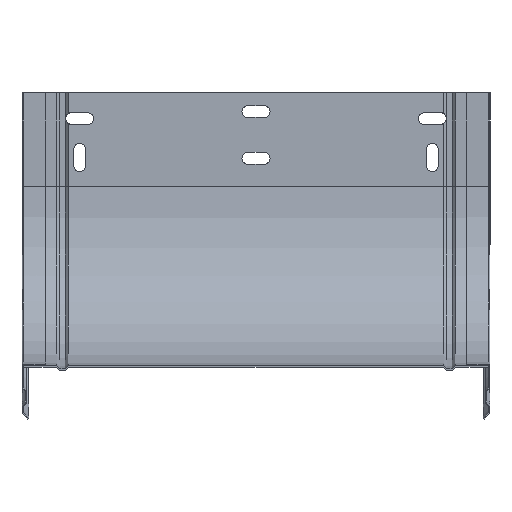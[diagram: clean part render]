
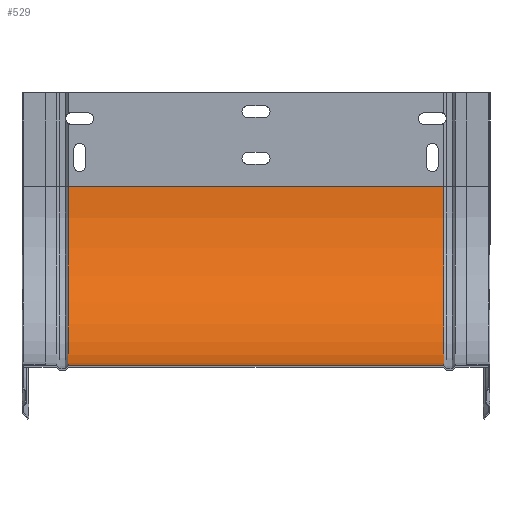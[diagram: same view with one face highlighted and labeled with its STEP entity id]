
A CAD part, front view. The second image highlights one B-rep face of the part: STEP entity #529.
In plain terms, the highlighted cylindrical face has radius 115 mm (diameter 230 mm), a partial arc.
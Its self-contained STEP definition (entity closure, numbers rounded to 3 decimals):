
#49 = EDGE_CURVE ( 'NONE', #2102, #777, #1106, .T. ) ;
#144 = AXIS2_PLACEMENT_3D ( 'NONE', #2597, #1044, #993 ) ;
#361 = ORIENTED_EDGE ( 'NONE', *, *, #5139, .T. ) ;
#375 = EDGE_CURVE ( 'NONE', #1811, #5048, #1212, .T. ) ;
#424 = FACE_OUTER_BOUND ( 'NONE', #5006, .T. ) ;
#529 = ADVANCED_FACE ( 'NONE', ( #424 ), #880, .F. ) ;
#602 = CARTESIAN_POINT ( 'NONE',  ( -120.331, 0., -60. ) ) ;
#631 = CARTESIAN_POINT ( 'NONE',  ( 120.331, -115., -175. ) ) ;
#777 = VERTEX_POINT ( 'NONE', #3968 ) ;
#822 = CARTESIAN_POINT ( 'NONE',  ( 120.331, -115., -60. ) ) ;
#880 = CYLINDRICAL_SURFACE ( 'NONE', #144, 115. ) ;
#993 = DIRECTION ( 'NONE',  ( 0., 0., 1. ) ) ;
#1044 = DIRECTION ( 'NONE',  ( -1., 0., 0. ) ) ;
#1106 = CIRCLE ( 'NONE', #5513, 115. ) ;
#1212 = CIRCLE ( 'NONE', #3754, 115. ) ;
#1508 = EDGE_CURVE ( 'NONE', #2102, #1811, #2297, .T. ) ;
#1637 = CARTESIAN_POINT ( 'NONE',  ( -120.331, -115., -175. ) ) ;
#1668 = CARTESIAN_POINT ( 'NONE',  ( 120.331, 0., -60. ) ) ;
#1811 = VERTEX_POINT ( 'NONE', #1668 ) ;
#2031 = ORIENTED_EDGE ( 'NONE', *, *, #49, .T. ) ;
#2056 = DIRECTION ( 'NONE',  ( 1., 0., 0. ) ) ;
#2102 = VERTEX_POINT ( 'NONE', #602 ) ;
#2270 = CARTESIAN_POINT ( 'NONE',  ( -120.331, 0., -60. ) ) ;
#2297 = LINE ( 'NONE', #2270, #3683 ) ;
#2518 = DIRECTION ( 'NONE',  ( -1., 0., 0. ) ) ;
#2540 = DIRECTION ( 'NONE',  ( 0., 0., 1. ) ) ;
#2597 = CARTESIAN_POINT ( 'NONE',  ( 0., -115., -60. ) ) ;
#2691 = VECTOR ( 'NONE', #2056, 1000. ) ;
#3638 = DIRECTION ( 'NONE',  ( -1., 0., 0. ) ) ;
#3683 = VECTOR ( 'NONE', #4005, 1000. ) ;
#3754 = AXIS2_PLACEMENT_3D ( 'NONE', #822, #2518, #2540 ) ;
#3968 = CARTESIAN_POINT ( 'NONE',  ( -120.331, -115., -175. ) ) ;
#4005 = DIRECTION ( 'NONE',  ( 1., 0., 0. ) ) ;
#4223 = ORIENTED_EDGE ( 'NONE', *, *, #1508, .F. ) ;
#4651 = ORIENTED_EDGE ( 'NONE', *, *, #375, .F. ) ;
#4661 = LINE ( 'NONE', #1637, #2691 ) ;
#5006 = EDGE_LOOP ( 'NONE', ( #4223, #2031, #361, #4651 ) ) ;
#5048 = VERTEX_POINT ( 'NONE', #631 ) ;
#5139 = EDGE_CURVE ( 'NONE', #777, #5048, #4661, .T. ) ;
#5310 = CARTESIAN_POINT ( 'NONE',  ( -120.331, -115., -60. ) ) ;
#5335 = DIRECTION ( 'NONE',  ( 0., 0., 1. ) ) ;
#5513 = AXIS2_PLACEMENT_3D ( 'NONE', #5310, #3638, #5335 ) ;
